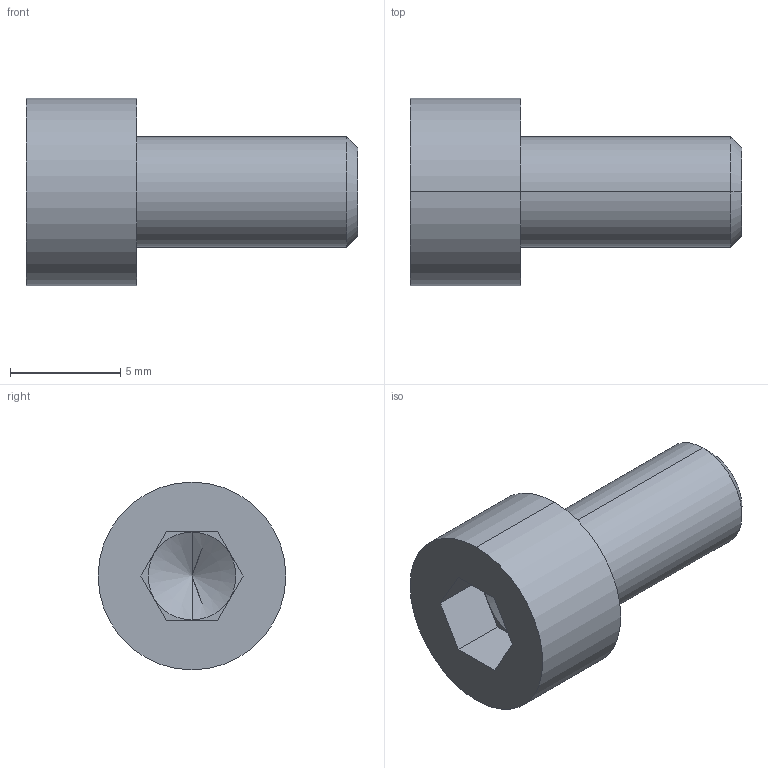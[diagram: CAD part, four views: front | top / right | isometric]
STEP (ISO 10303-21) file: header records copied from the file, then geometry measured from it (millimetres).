
FILE_DESCRIPTION (( 'STEP AP214' ), '1' );
FILE_NAME ('M5x10_DIN912.STEP', '2016-05-14T08:25:31', ( '' ), ( '' ), 'SwSTEP 2.0', 'SolidWorks 2014', '' );
FILE_SCHEMA (( 'AUTOMOTIVE_DESIGN' ));
Length unit declared in the file: millimetre
Products named in the file (1): M5x10_DIN912
Bounding box: 15 x 8.5 x 8.5 mm (x, y, z)
Volume: 438.9 mm3; surface area: 435.8 mm2
Topology: 1 solids, 1 shells, 18 faces, 40 edges, 25 vertices
Faces by surface type: plane 10, cylinder 4, cone 4
Entity records: 718 total; most frequent: DIRECTION 88, CARTESIAN_POINT 82, ORIENTED_EDGE 76, EDGE_CURVE 38, AXIS2_PLACEMENT_3D 31, LINE 26, VECTOR 26, VERTEX_POINT 25
